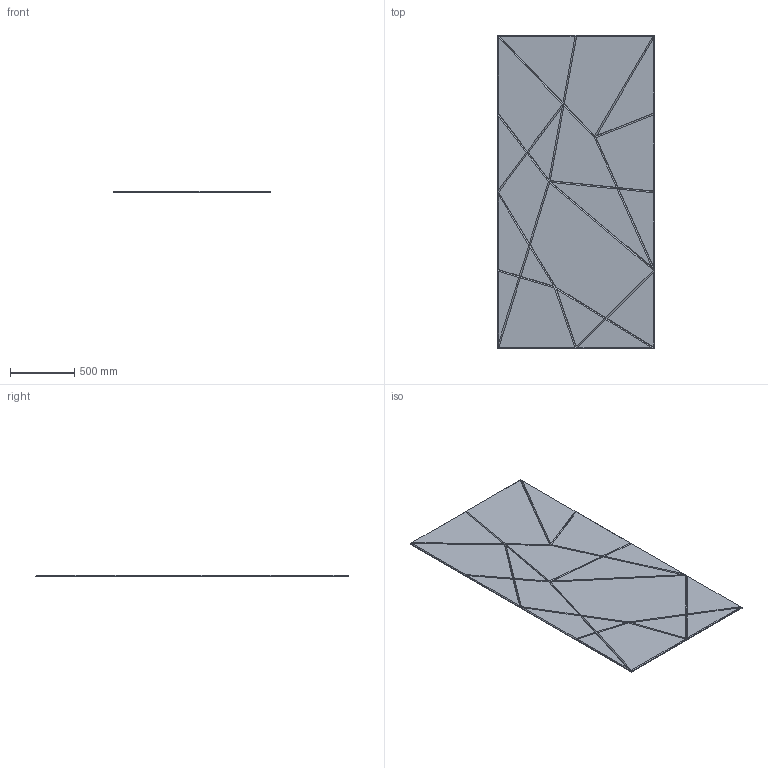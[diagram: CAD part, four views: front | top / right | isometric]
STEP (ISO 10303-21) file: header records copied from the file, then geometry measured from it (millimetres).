
FILE_DESCRIPTION(/* description */ (''),/* implementation_level */ '2;1');
FILE_NAME(/* name */ 'Y:\Design and Engineering\MaterialLogiq\CAD ASSETS\MASTER\PET ENGRAVED\WEB ASSETS\Organic 3.stp',/* time_stamp */ '2024-09-03T13:41:49-05:00',/* author */ ('Grant Baker'),/* organization */ (''),/* preprocessor_version */ 'ST-DEVELOPER v19',/* originating_system */ 'Autodesk Inventor 2023',/* authorisation */ '');
FILE_SCHEMA (('AUTOMOTIVE_DESIGN { 1 0 10303 214 3 1 1 }'));
Length unit declared in the file: inch
Products named in the file (1): Organic 3
Bounding box: 1219.2 x 2438.4 x 12.7 mm (x, y, z)
Volume: 37086568.8 mm3; surface area: 6078925.5 mm2
Topology: 1 solids, 1 shells, 129 faces, 309 edges, 165 vertices
Faces by surface type: plane 106, cone 23
Entity records: 3476 total; most frequent: CARTESIAN_POINT 599, ORIENTED_EDGE 584, DIRECTION 569, EDGE_CURVE 292, LINE 263, VECTOR 263, VERTEX_POINT 165, AXIS2_PLACEMENT_3D 153
